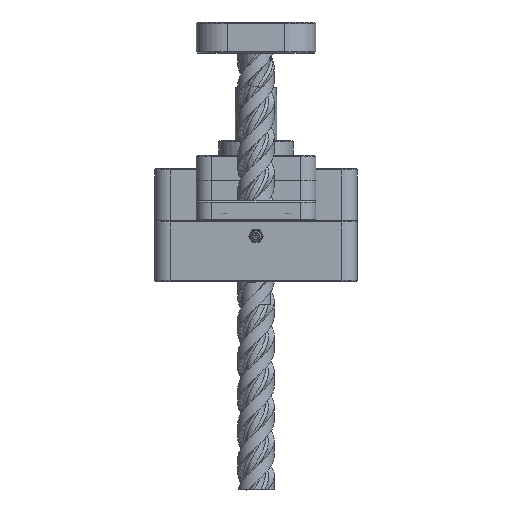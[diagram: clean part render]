
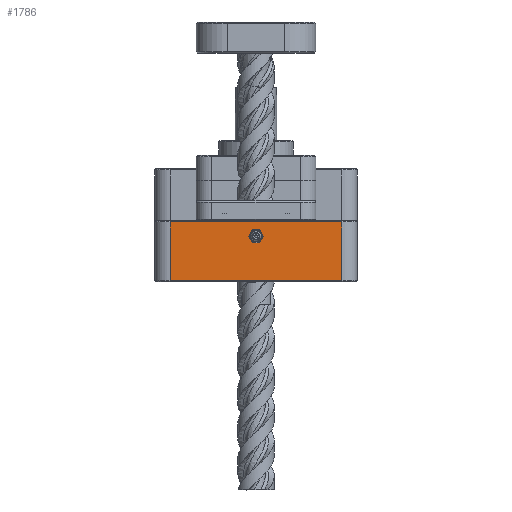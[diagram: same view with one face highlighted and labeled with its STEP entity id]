
A CAD part, left-side view. The second image highlights one B-rep face of the part: STEP entity #1786.
In plain terms, the highlighted planar face has unit normal (-1, 0, 0).
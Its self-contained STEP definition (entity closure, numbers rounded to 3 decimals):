
#1786 = ADVANCED_FACE( '', ( #4330, #4331 ), #4332, .T. );
#4330 = FACE_OUTER_BOUND( '', #13227, .T. );
#4331 = FACE_BOUND( '', #13228, .T. );
#4332 = PLANE( '', #13229 );
#13227 = EDGE_LOOP( '', ( #27755, #27756, #27757, #27758 ) );
#13228 = EDGE_LOOP( '', ( #27759 ) );
#13229 = AXIS2_PLACEMENT_3D( '', #27760, #27761, #27762 );
#27755 = ORIENTED_EDGE( '', *, *, #33673, .F. );
#27756 = ORIENTED_EDGE( '', *, *, #32863, .T. );
#27757 = ORIENTED_EDGE( '', *, *, #33674, .T. );
#27758 = ORIENTED_EDGE( '', *, *, #32819, .T. );
#27759 = ORIENTED_EDGE( '', *, *, #33675, .F. );
#27760 = CARTESIAN_POINT( '', ( -41.275, -36.513, 37.465 ) );
#27761 = DIRECTION( '', ( -1., 0., 0. ) );
#27762 = DIRECTION( '', ( 0., 0., 1. ) );
#32819 = EDGE_CURVE( '', #36222, #36220, #36223, .T. );
#32863 = EDGE_CURVE( '', #36289, #36291, #36293, .T. );
#33673 = EDGE_CURVE( '', #36289, #36220, #37566, .T. );
#33674 = EDGE_CURVE( '', #36291, #36222, #37567, .T. );
#33675 = EDGE_CURVE( '', #37568, #37568, #37569, .T. );
#36220 = VERTEX_POINT( '', #44386 );
#36222 = VERTEX_POINT( '', #44389 );
#36223 = LINE( '', #44390, #44391 );
#36289 = VERTEX_POINT( '', #44718 );
#36291 = VERTEX_POINT( '', #44721 );
#36293 = LINE( '', #44724, #44725 );
#37566 = LINE( '', #51360, #51361 );
#37567 = LINE( '', #51362, #51363 );
#37568 = VERTEX_POINT( '', #51364 );
#37569 = CIRCLE( '', #51365, 2.705 );
#44386 = CARTESIAN_POINT( '', ( -41.275, 52.388, 36.678 ) );
#44389 = CARTESIAN_POINT( '', ( -41.275, -52.388, 36.678 ) );
#44390 = CARTESIAN_POINT( '', ( -41.275, 52.388, 36.678 ) );
#44391 = VECTOR( '', #59131, 1000. );
#44718 = CARTESIAN_POINT( '', ( -41.275, 52.388, 0.787 ) );
#44721 = CARTESIAN_POINT( '', ( -41.275, -52.388, 0.787 ) );
#44724 = CARTESIAN_POINT( '', ( -41.275, -36.513, 0.787 ) );
#44725 = VECTOR( '', #59184, 1000. );
#51360 = CARTESIAN_POINT( '', ( -41.275, 52.388, -8.662 ) );
#51361 = VECTOR( '', #60076, 1000. );
#51362 = CARTESIAN_POINT( '', ( -41.275, -52.388, 37.465 ) );
#51363 = VECTOR( '', #60077, 1000. );
#51364 = CARTESIAN_POINT( '', ( -41.275, 0., 30.645 ) );
#51365 = AXIS2_PLACEMENT_3D( '', #60078, #60079, #60080 );
#59131 = DIRECTION( '', ( 0., 1., 0. ) );
#59184 = DIRECTION( '', ( 0., -1., 0. ) );
#60076 = DIRECTION( '', ( 0., 0., 1. ) );
#60077 = DIRECTION( '', ( 0., 0., 1. ) );
#60078 = CARTESIAN_POINT( '', ( -41.275, 0., 27.94 ) );
#60079 = DIRECTION( '', ( -1., 0., 0. ) );
#60080 = DIRECTION( '', ( 0., 0., 1. ) );
